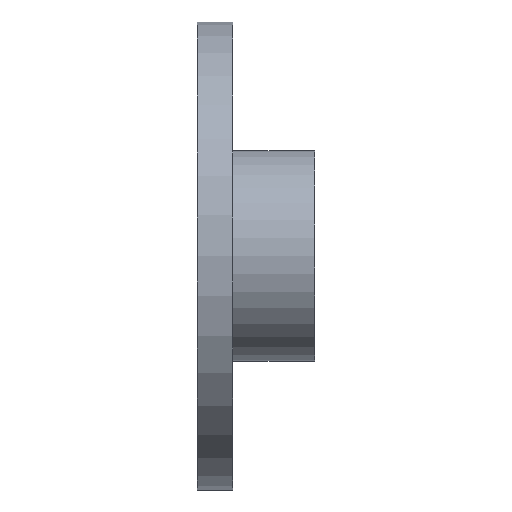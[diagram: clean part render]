
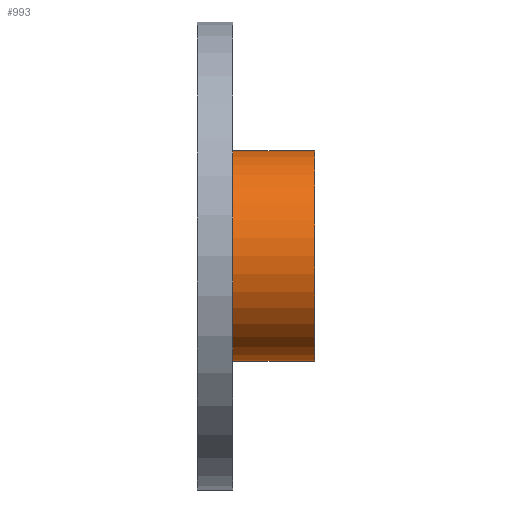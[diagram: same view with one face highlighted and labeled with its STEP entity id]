
A CAD part, top view. The second image highlights one B-rep face of the part: STEP entity #993.
In plain terms, the highlighted cylindrical face has radius 9 mm (diameter 18 mm), a full revolution.
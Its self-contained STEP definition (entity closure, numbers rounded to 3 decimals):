
#373 = PLANE('',#374);
#374 = AXIS2_PLACEMENT_3D('',#375,#376,#377);
#375 = CARTESIAN_POINT('',(75.,-49.893,-53.918));
#376 = DIRECTION('',(1.,0.,0.));
#377 = DIRECTION('',(0.,1.,0.));
#921 = EDGE_CURVE('',#922,#922,#924,.T.);
#922 = VERTEX_POINT('',#923);
#923 = CARTESIAN_POINT('',(75.,-40.893,-53.918));
#924 = SURFACE_CURVE('',#925,(#930,#937),.PCURVE_S1.);
#925 = CIRCLE('',#926,9.);
#926 = AXIS2_PLACEMENT_3D('',#927,#928,#929);
#927 = CARTESIAN_POINT('',(75.,-49.893,-53.918));
#928 = DIRECTION('',(1.,0.,0.));
#929 = DIRECTION('',(0.,1.,0.));
#930 = PCURVE('',#373,#931);
#931 = DEFINITIONAL_REPRESENTATION('',(#932),#936);
#932 = CIRCLE('',#933,9.);
#933 = AXIS2_PLACEMENT_2D('',#934,#935);
#934 = CARTESIAN_POINT('',(0.,0.));
#935 = DIRECTION('',(1.,0.));
#936 = ( GEOMETRIC_REPRESENTATION_CONTEXT(2) 
PARAMETRIC_REPRESENTATION_CONTEXT() REPRESENTATION_CONTEXT('2D SPACE',''
  ) );
#937 = PCURVE('',#938,#943);
#938 = CYLINDRICAL_SURFACE('',#939,9.);
#939 = AXIS2_PLACEMENT_3D('',#940,#941,#942);
#940 = CARTESIAN_POINT('',(72.,-49.893,-53.918));
#941 = DIRECTION('',(1.,0.,0.));
#942 = DIRECTION('',(0.,1.,0.));
#943 = DEFINITIONAL_REPRESENTATION('',(#944),#948);
#944 = LINE('',#945,#946);
#945 = CARTESIAN_POINT('',(0.,3.));
#946 = VECTOR('',#947,1.);
#947 = DIRECTION('',(1.,0.));
#948 = ( GEOMETRIC_REPRESENTATION_CONTEXT(2) 
PARAMETRIC_REPRESENTATION_CONTEXT() REPRESENTATION_CONTEXT('2D SPACE',''
  ) );
#993 = ADVANCED_FACE('',(#994),#938,.T.);
#994 = FACE_BOUND('',#995,.T.);
#995 = EDGE_LOOP('',(#996,#1019,#1046,#1047));
#996 = ORIENTED_EDGE('',*,*,#997,.T.);
#997 = EDGE_CURVE('',#922,#998,#1000,.T.);
#998 = VERTEX_POINT('',#999);
#999 = CARTESIAN_POINT('',(82.,-40.893,-53.918));
#1000 = SEAM_CURVE('',#1001,(#1005,#1012),.PCURVE_S1.);
#1001 = LINE('',#1002,#1003);
#1002 = CARTESIAN_POINT('',(72.,-40.893,-53.918));
#1003 = VECTOR('',#1004,1.);
#1004 = DIRECTION('',(1.,0.,0.));
#1005 = PCURVE('',#938,#1006);
#1006 = DEFINITIONAL_REPRESENTATION('',(#1007),#1011);
#1007 = LINE('',#1008,#1009);
#1008 = CARTESIAN_POINT('',(6.283,0.));
#1009 = VECTOR('',#1010,1.);
#1010 = DIRECTION('',(0.,1.));
#1011 = ( GEOMETRIC_REPRESENTATION_CONTEXT(2) 
PARAMETRIC_REPRESENTATION_CONTEXT() REPRESENTATION_CONTEXT('2D SPACE',''
  ) );
#1012 = PCURVE('',#938,#1013);
#1013 = DEFINITIONAL_REPRESENTATION('',(#1014),#1018);
#1014 = LINE('',#1015,#1016);
#1015 = CARTESIAN_POINT('',(0.,0.));
#1016 = VECTOR('',#1017,1.);
#1017 = DIRECTION('',(0.,1.));
#1018 = ( GEOMETRIC_REPRESENTATION_CONTEXT(2) 
PARAMETRIC_REPRESENTATION_CONTEXT() REPRESENTATION_CONTEXT('2D SPACE',''
  ) );
#1019 = ORIENTED_EDGE('',*,*,#1020,.F.);
#1020 = EDGE_CURVE('',#998,#998,#1021,.T.);
#1021 = SURFACE_CURVE('',#1022,(#1027,#1034),.PCURVE_S1.);
#1022 = CIRCLE('',#1023,9.);
#1023 = AXIS2_PLACEMENT_3D('',#1024,#1025,#1026);
#1024 = CARTESIAN_POINT('',(82.,-49.893,-53.918));
#1025 = DIRECTION('',(1.,0.,0.));
#1026 = DIRECTION('',(0.,1.,0.));
#1027 = PCURVE('',#938,#1028);
#1028 = DEFINITIONAL_REPRESENTATION('',(#1029),#1033);
#1029 = LINE('',#1030,#1031);
#1030 = CARTESIAN_POINT('',(0.,10.));
#1031 = VECTOR('',#1032,1.);
#1032 = DIRECTION('',(1.,0.));
#1033 = ( GEOMETRIC_REPRESENTATION_CONTEXT(2) 
PARAMETRIC_REPRESENTATION_CONTEXT() REPRESENTATION_CONTEXT('2D SPACE',''
  ) );
#1034 = PCURVE('',#1035,#1040);
#1035 = PLANE('',#1036);
#1036 = AXIS2_PLACEMENT_3D('',#1037,#1038,#1039);
#1037 = CARTESIAN_POINT('',(82.,-49.893,-53.918));
#1038 = DIRECTION('',(1.,0.,0.));
#1039 = DIRECTION('',(0.,1.,0.));
#1040 = DEFINITIONAL_REPRESENTATION('',(#1041),#1045);
#1041 = CIRCLE('',#1042,9.);
#1042 = AXIS2_PLACEMENT_2D('',#1043,#1044);
#1043 = CARTESIAN_POINT('',(0.,0.));
#1044 = DIRECTION('',(1.,0.));
#1045 = ( GEOMETRIC_REPRESENTATION_CONTEXT(2) 
PARAMETRIC_REPRESENTATION_CONTEXT() REPRESENTATION_CONTEXT('2D SPACE',''
  ) );
#1046 = ORIENTED_EDGE('',*,*,#997,.F.);
#1047 = ORIENTED_EDGE('',*,*,#921,.T.);
